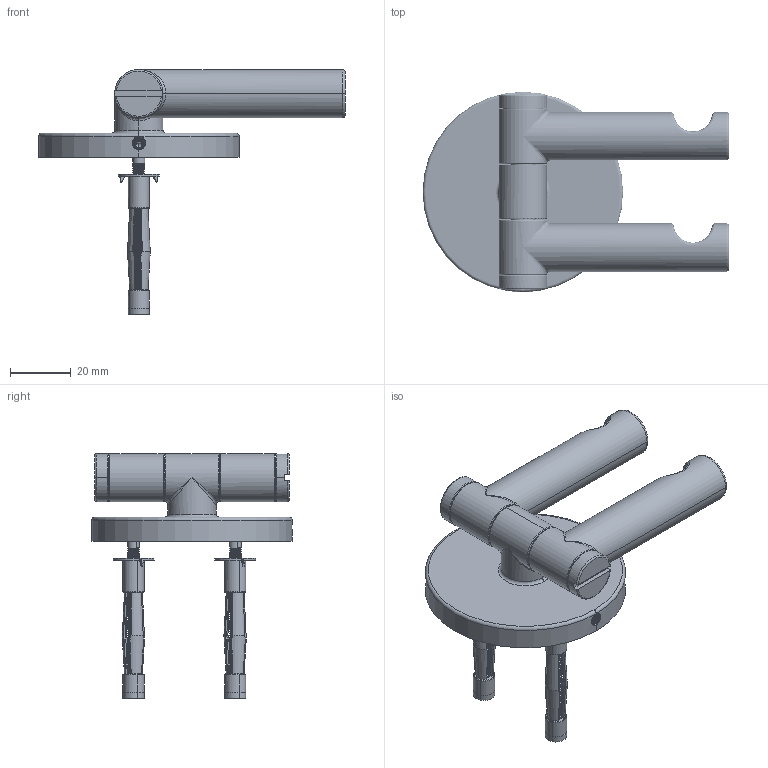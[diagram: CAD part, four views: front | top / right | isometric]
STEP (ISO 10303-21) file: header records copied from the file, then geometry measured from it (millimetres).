
FILE_DESCRIPTION (( 'STEP AP203' ), '1' );
FILE_NAME ('sku_yb0402series_stp.STEP', '2026-04-27T07:16:43', ( '' ), ( '' ), 'SwSTEP 2.0', 'SolidWorks 2025', '' );
FILE_SCHEMA (( 'CONFIG_CONTROL_DESIGN' ));
Length unit declared in the file: millimetre
Products named in the file (14): yb0402series(2)_yb0402series.stp; YP14411_1_YP14411.stp; YP14345_1_YP14345.stp; 218436_yp04150; yb0402series-stp-1_yb0402series-stp-1; sku_yb0402series_stp; yp04150_2_YP04150_2_BREP; yp04150_1_YP04150_1_BREP; YP14375_1_YP14375.stp; YP14341_1_YP14341.stp; YP14324_1_YP14324.stp; YP14342_1_YP14342.stp; YP14323_1_YP14323.stp; YP05860_1_YP05860.stp
Assembly tree (15 placements, depth 4):
  sku_yb0402series_stp
    218436_yp04150  x2
      yp04150_1_YP04150_1_BREP
      yp04150_2_YP04150_2_BREP
    yb0402series-stp-1_yb0402series-stp-1
      yb0402series(2)_yb0402series.stp
        YP14341_1_YP14341.stp
        YP14342_1_YP14342.stp
        YP14375_1_YP14375.stp
        YP14323_1_YP14323.stp  x2
        YP14345_1_YP14345.stp
        YP14324_1_YP14324.stp
        YP14411_1_YP14411.stp
        YP05860_1_YP05860.stp
Bounding box: 101 x 66 x 80.64 mm (x, y, z)
Volume: 46231.3 mm3; surface area: 35210.8 mm2
Topology: 15 solids, 15 shells, 1400 faces, 3621 edges, 2270 vertices
Faces by surface type: cylinder 613, plane 298, bspline 289, torus 139, cone 55, sphere 6
Entity records: 68388 total; most frequent: CARTESIAN_POINT 44488, ORIENTED_EDGE 5256, DIRECTION 3781, EDGE_CURVE 2628, VERTEX_POINT 1629, AXIS2_PLACEMENT_3D 1422, EDGE_LOOP 1089, FACE_OUTER_BOUND 1041
